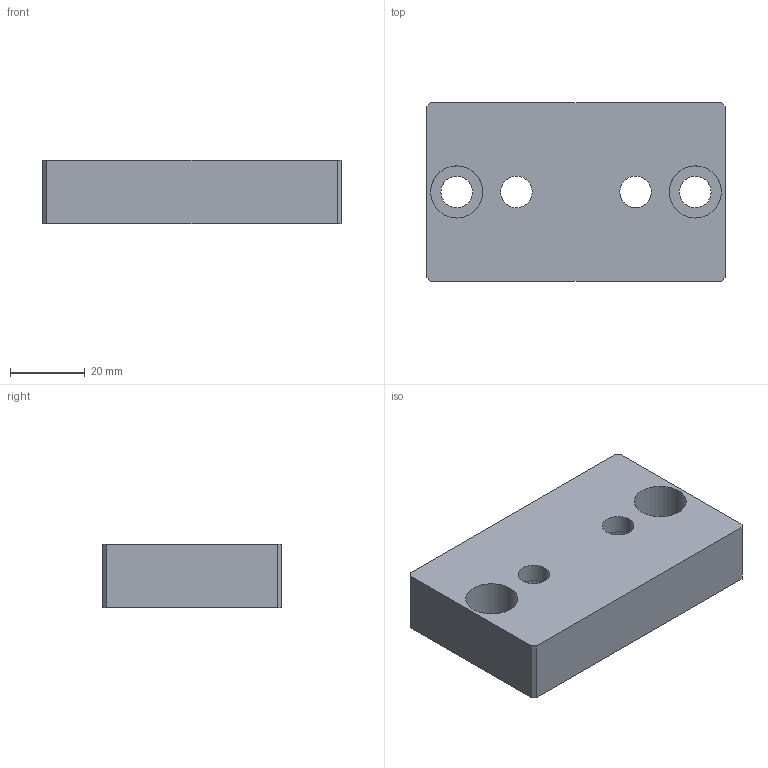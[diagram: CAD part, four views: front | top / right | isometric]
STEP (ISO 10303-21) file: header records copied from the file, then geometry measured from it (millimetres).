
FILE_DESCRIPTION(('CATIA V5 STEP Exchange'),'2;1');
FILE_NAME('D:\姚明阳\1、工装图纸\AGZ131\GZ-SDCG06_V3.stp','2025-02-06T06:00:17+00:00',('none'),('none'),'CATIA Version 5 Release 20 GA (IN-10)','CATIA V5 STEP AP203','none');
FILE_SCHEMA(('CONFIG_CONTROL_DESIGN'));
Length unit declared in the file: millimetre
Products named in the file (1): GZ-SDCG06_V1
Bounding box: 80 x 48 x 17 mm (x, y, z)
Volume: 56722.1 mm3; surface area: 14179.4 mm2
Topology: 1 solids, 1 shells, 30 faces, 72 edges, 48 vertices
Faces by surface type: cylinder 16, plane 14
Entity records: 967 total; most frequent: CARTESIAN_POINT 218, ORIENTED_EDGE 144, DIRECTION 125, EDGE_CURVE 72, AXIS2_PLACEMENT_3D 58, VERTEX_POINT 48, EDGE_LOOP 42, VECTOR 40
